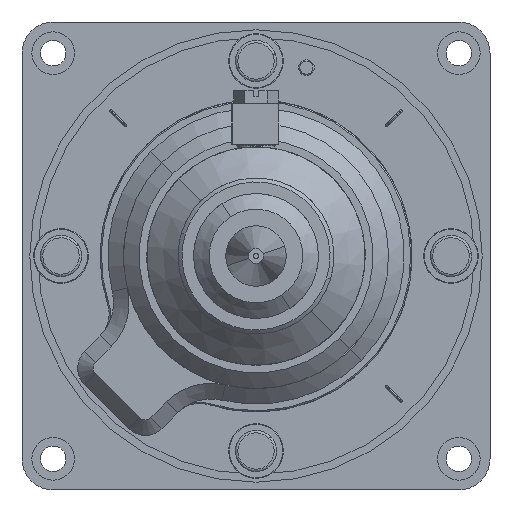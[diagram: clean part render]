
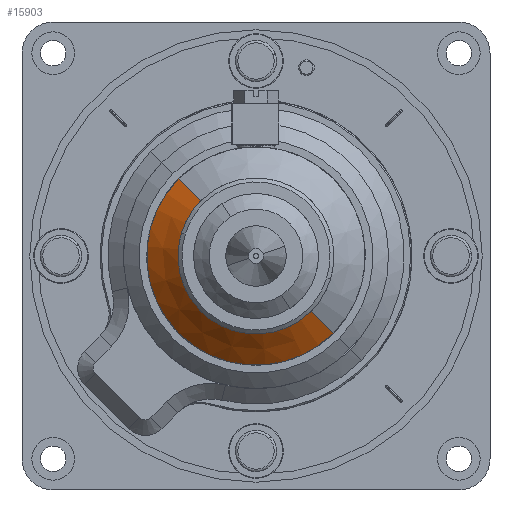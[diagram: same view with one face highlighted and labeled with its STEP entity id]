
A CAD part, front view. The second image highlights one B-rep face of the part: STEP entity #15903.
In plain terms, the highlighted conical face has half-angle 45 degrees and reference radius 15.875 mm.
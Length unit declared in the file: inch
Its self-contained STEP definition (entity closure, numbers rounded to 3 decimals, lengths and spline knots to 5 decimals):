
#89 = ORIENTED_EDGE ( 'NONE', *, *, #1355, .F. ) ;
#263 = CARTESIAN_POINT ( 'NONE',  ( -0.44194, -5.35127, 0.44194 ) ) ;
#268 = DIRECTION ( 'NONE',  ( -0.707, 0., 0.707 ) ) ;
#847 = DIRECTION ( 'NONE',  ( 0.707, 0., -0.707 ) ) ;
#924 = CARTESIAN_POINT ( 'NONE',  ( 0.44194, -5.35127, -0.44194 ) ) ;
#1052 = DIRECTION ( 'NONE',  ( 0., 1., 0. ) ) ;
#1102 = EDGE_CURVE ( 'NONE', #2437, #6783, #13981, .T. ) ;
#1355 = EDGE_CURVE ( 'Defeatured_0_51+Defeatured_0_54+Defeatured_0_54+Defeatured_0_54', #2437, #6484, #3853, .T. ) ;
#1578 = DIRECTION ( 'NONE',  ( -0.707, 0., 0.707 ) ) ;
#1849 = DIRECTION ( 'NONE',  ( 0., -1., 0. ) ) ;
#2087 = AXIS2_PLACEMENT_3D ( 'NONE', #10842, #1052, #847 ) ;
#2437 = VERTEX_POINT ( 'NONE', #263 ) ;
#3853 = CIRCLE ( 'NONE', #10255, 0.625 ) ;
#4847 = EDGE_LOOP ( 'NONE', ( #89, #18179, #16663, #7263 ) ) ;
#5271 = EDGE_CURVE ( 'Defeatured_0_54+Defeatured_0_53+Defeatured_0_53+Defeatured_0_53', #6783, #17978, #21217, .T. ) ;
#5300 = AXIS2_PLACEMENT_3D ( 'NONE', #20258, #1849, #268 ) ;
#6484 = VERTEX_POINT ( 'NONE', #924 ) ;
#6783 = VERTEX_POINT ( 'NONE', #12454 ) ;
#7263 = ORIENTED_EDGE ( 'NONE', *, *, #9629, .F. ) ;
#8122 = DIRECTION ( 'NONE',  ( 0., -1., 0. ) ) ;
#9629 = EDGE_CURVE ( 'NONE', #6484, #17978, #17337, .T. ) ;
#10000 = CARTESIAN_POINT ( 'NONE',  ( -0.44194, -5.35127, 0.44194 ) ) ;
#10100 = VECTOR ( 'NONE', #19762, 39.37008 ) ;
#10255 = AXIS2_PLACEMENT_3D ( 'NONE', #18024, #8122, #1578 ) ;
#10842 = CARTESIAN_POINT ( 'NONE',  ( 0., -5.35127, 0. ) ) ;
#11803 = DIRECTION ( 'NONE',  ( -0.5, 0.707, 0.5 ) ) ;
#12454 = CARTESIAN_POINT ( 'NONE',  ( -0.61872, -5.10127, 0.61872 ) ) ;
#13981 = LINE ( 'NONE', #10000, #14485 ) ;
#14485 = VECTOR ( 'NONE', #11803, 39.37008 ) ;
#15470 = CONICAL_SURFACE ( 'NONE', #2087, 0.625, 0.785 ) ;
#15903 = ADVANCED_FACE ( 'Defeatured_0_54', ( #17045 ), #15470, .T. ) ;
#16663 = ORIENTED_EDGE ( 'NONE', *, *, #5271, .T. ) ;
#17045 = FACE_OUTER_BOUND ( 'NONE', #4847, .T. ) ;
#17337 = LINE ( 'NONE', #18113, #10100 ) ;
#17978 = VERTEX_POINT ( 'NONE', #19179 ) ;
#18024 = CARTESIAN_POINT ( 'NONE',  ( 0., -5.35127, 0. ) ) ;
#18113 = CARTESIAN_POINT ( 'NONE',  ( 0.44194, -5.35127, -0.44194 ) ) ;
#18179 = ORIENTED_EDGE ( 'NONE', *, *, #1102, .T. ) ;
#19179 = CARTESIAN_POINT ( 'NONE',  ( 0.61872, -5.10127, -0.61872 ) ) ;
#19762 = DIRECTION ( 'NONE',  ( 0.5, 0.707, -0.5 ) ) ;
#20258 = CARTESIAN_POINT ( 'NONE',  ( 0., -5.10127, 0. ) ) ;
#21217 = CIRCLE ( 'NONE', #5300, 0.875 ) ;
